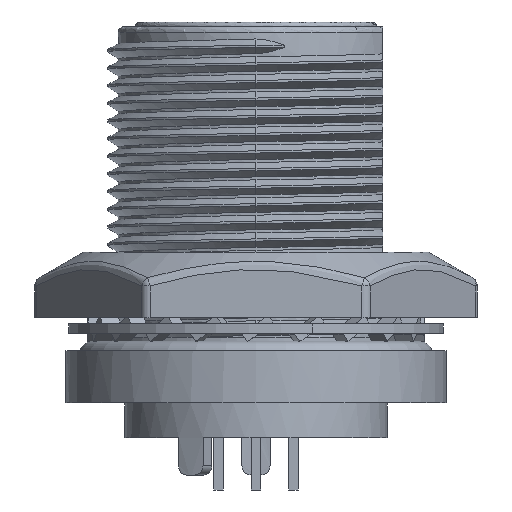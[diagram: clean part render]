
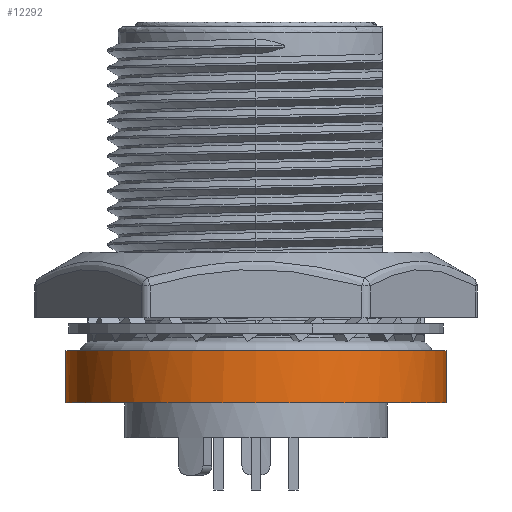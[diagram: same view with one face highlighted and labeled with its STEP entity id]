
A CAD part, front view. The second image highlights one B-rep face of the part: STEP entity #12292.
In plain terms, the highlighted cylindrical face has radius 10.15 mm (diameter 20.3 mm), a partial arc.
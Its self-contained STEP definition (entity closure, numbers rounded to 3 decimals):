
#23 = B_SPLINE_CURVE_WITH_KNOTS ( 'NONE', 3,
 ( #34065, #4093, #21361, #23036, #53823, #14524, #27825, #44758, #53270, #1806 ),
 .UNSPECIFIED., .F., .F.,
 ( 4, 2, 2, 2, 4 ),
 ( 0., 0.25, 0.5, 0.75, 1. ),
 .UNSPECIFIED. ) ;
#1806 = CARTESIAN_POINT ( 'NONE',  ( -14.407, 0.077, 4.75 ) ) ;
#2062 = DIRECTION ( 'NONE',  ( 0., 0., -1. ) ) ;
#3973 = VERTEX_POINT ( 'NONE', #23758 ) ;
#4093 = CARTESIAN_POINT ( 'NONE',  ( -5.585, -10.073, 4.75 ) ) ;
#6295 = CARTESIAN_POINT ( 'NONE',  ( 5.893, 0.077, 4.75 ) ) ;
#6901 = CARTESIAN_POINT ( 'NONE',  ( -4.257, 0.077, 1.95 ) ) ;
#9224 = EDGE_CURVE ( 'NONE', #12417, #3973, #40510, .T. ) ;
#9701 = DIRECTION ( 'NONE',  ( 0., 0., -1. ) ) ;
#10014 = ORIENTED_EDGE ( 'NONE', *, *, #52636, .T. ) ;
#10821 = VECTOR ( 'NONE', #2062, 1000. ) ;
#12226 = CARTESIAN_POINT ( 'NONE',  ( 0.855, -8.792, 4.75 ) ) ;
#12292 = ADVANCED_FACE ( 'NONE', ( #13799 ), #40085, .T. ) ;
#12417 = VERTEX_POINT ( 'NONE', #26407 ) ;
#12977 = VERTEX_POINT ( 'NONE', #49784 ) ;
#13412 = ORIENTED_EDGE ( 'NONE', *, *, #36278, .T. ) ;
#13799 = FACE_OUTER_BOUND ( 'NONE', #43493, .T. ) ;
#13947 = LINE ( 'NONE', #14502, #52895 ) ;
#14502 = CARTESIAN_POINT ( 'NONE',  ( -14.407, 0.077, 4.75 ) ) ;
#14524 = CARTESIAN_POINT ( 'NONE',  ( -12.373, -6.16, 4.75 ) ) ;
#15734 = EDGE_CURVE ( 'NONE', #3973, #42679, #22155, .T. ) ;
#16472 = CARTESIAN_POINT ( 'NONE',  ( 4.612, -5.034, 4.75 ) ) ;
#17365 = B_SPLINE_CURVE_WITH_KNOTS ( 'NONE', 3,
 ( #33149, #46141, #20728, #16472, #33717, #50964, #12226, #25258, #42462, #55508 ),
 .UNSPECIFIED., .F., .F.,
 ( 4, 2, 2, 2, 4 ),
 ( 0., 0.25, 0.5, 0.75, 1. ),
 .UNSPECIFIED. ) ;
#19402 = AXIS2_PLACEMENT_3D ( 'NONE', #6901, #24167, #32908 ) ;
#20520 = CARTESIAN_POINT ( 'NONE',  ( -14.407, 0.077, 1.95 ) ) ;
#20728 = CARTESIAN_POINT ( 'NONE',  ( 5.629, -2.579, 4.75 ) ) ;
#21127 = ORIENTED_EDGE ( 'NONE', *, *, #9224, .F. ) ;
#21361 = CARTESIAN_POINT ( 'NONE',  ( -6.914, -9.808, 4.75 ) ) ;
#22155 = CIRCLE ( 'NONE', #19402, 10.15 ) ;
#23036 = CARTESIAN_POINT ( 'NONE',  ( -9.369, -8.792, 4.75 ) ) ;
#23758 = CARTESIAN_POINT ( 'NONE',  ( 5.893, 0.077, 1.95 ) ) ;
#24167 = DIRECTION ( 'NONE',  ( 0., 0., -1. ) ) ;
#25258 = CARTESIAN_POINT ( 'NONE',  ( -1.6, -9.808, 4.75 ) ) ;
#26407 = CARTESIAN_POINT ( 'NONE',  ( 5.893, 0.077, 4.75 ) ) ;
#27825 = CARTESIAN_POINT ( 'NONE',  ( -13.126, -5.034, 4.75 ) ) ;
#31281 = ORIENTED_EDGE ( 'NONE', *, *, #15734, .F. ) ;
#31882 = CARTESIAN_POINT ( 'NONE',  ( -4.257, 0.077, 4.75 ) ) ;
#32908 = DIRECTION ( 'NONE',  ( -1., 0., 0. ) ) ;
#33149 = CARTESIAN_POINT ( 'NONE',  ( 5.893, 0.077, 4.75 ) ) ;
#33717 = CARTESIAN_POINT ( 'NONE',  ( 3.86, -6.16, 4.75 ) ) ;
#34065 = CARTESIAN_POINT ( 'NONE',  ( -4.257, -10.073, 4.75 ) ) ;
#34369 = EDGE_CURVE ( 'NONE', #50012, #42679, #13947, .T. ) ;
#35561 = DIRECTION ( 'NONE',  ( -1., 0., 0. ) ) ;
#36278 = EDGE_CURVE ( 'NONE', #12417, #12977, #17365, .T. ) ;
#40085 = CYLINDRICAL_SURFACE ( 'NONE', #52395, 10.15 ) ;
#40135 = CARTESIAN_POINT ( 'NONE',  ( -14.407, 0.077, 4.75 ) ) ;
#40510 = LINE ( 'NONE', #6295, #10821 ) ;
#40632 = DIRECTION ( 'NONE',  ( 0., 0., -1. ) ) ;
#42037 = ORIENTED_EDGE ( 'NONE', *, *, #34369, .T. ) ;
#42462 = CARTESIAN_POINT ( 'NONE',  ( -2.928, -10.073, 4.75 ) ) ;
#42679 = VERTEX_POINT ( 'NONE', #20520 ) ;
#43493 = EDGE_LOOP ( 'NONE', ( #21127, #13412, #10014, #42037, #31281 ) ) ;
#44758 = CARTESIAN_POINT ( 'NONE',  ( -14.143, -2.579, 4.75 ) ) ;
#46141 = CARTESIAN_POINT ( 'NONE',  ( 5.893, -1.251, 4.75 ) ) ;
#49784 = CARTESIAN_POINT ( 'NONE',  ( -4.257, -10.073, 4.75 ) ) ;
#50012 = VERTEX_POINT ( 'NONE', #40135 ) ;
#50964 = CARTESIAN_POINT ( 'NONE',  ( 1.981, -8.039, 4.75 ) ) ;
#52395 = AXIS2_PLACEMENT_3D ( 'NONE', #31882, #40632, #35561 ) ;
#52636 = EDGE_CURVE ( 'NONE', #12977, #50012, #23, .T. ) ;
#52895 = VECTOR ( 'NONE', #9701, 1000. ) ;
#53270 = CARTESIAN_POINT ( 'NONE',  ( -14.407, -1.251, 4.75 ) ) ;
#53823 = CARTESIAN_POINT ( 'NONE',  ( -10.494, -8.039, 4.75 ) ) ;
#55508 = CARTESIAN_POINT ( 'NONE',  ( -4.257, -10.073, 4.75 ) ) ;
